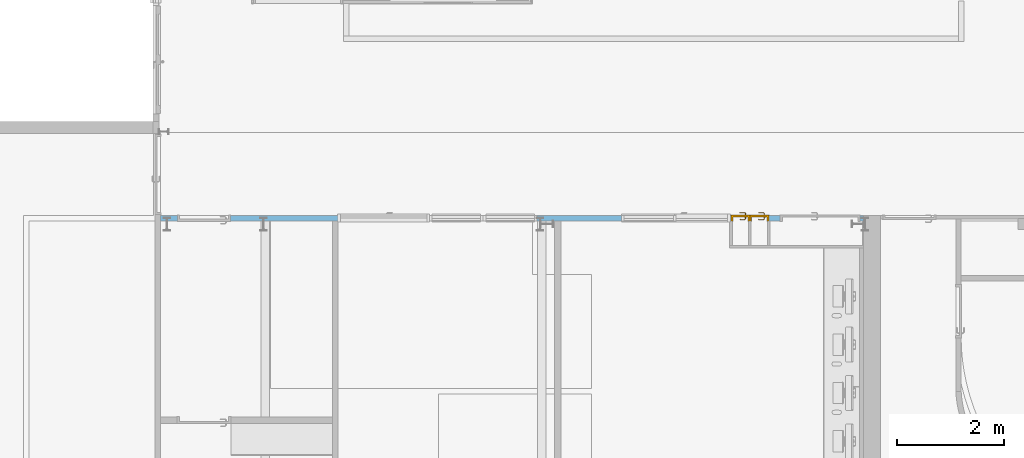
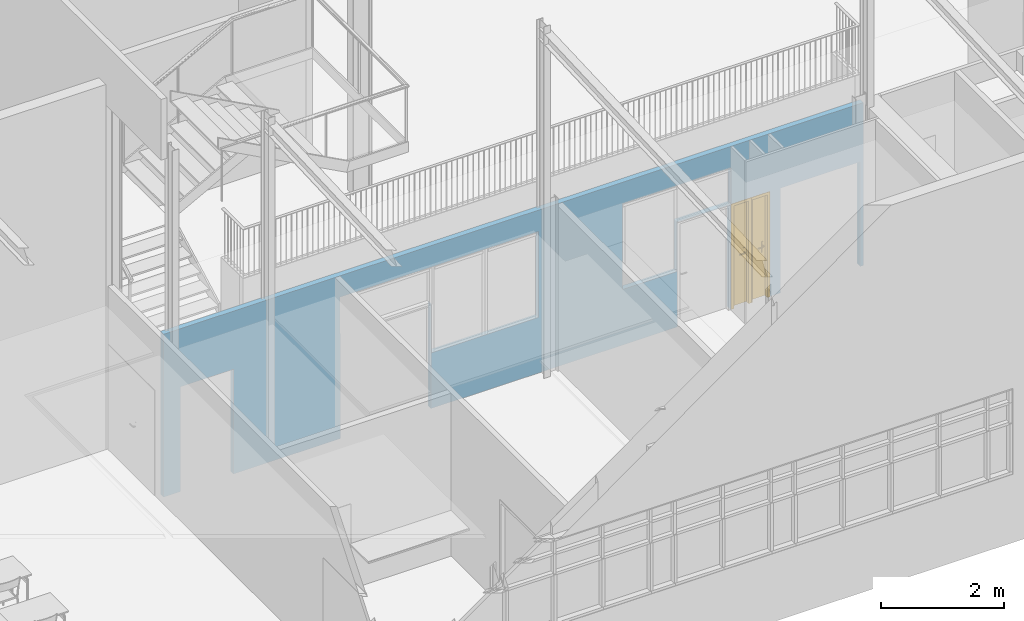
# One storey, part 39 of 137: 2 doors, 10 openings, plus 1 element that does not belong to this part.
"""IFC2X3 building model written with IfcOpenShell, lengths in centimetres."""

import ifcopenshell
import ifcopenshell.guid

model = None  # the IFC model being written
_history = None  # IfcOwnerHistory: only IFC2X3 demands one
_inside = {}  # id of a spatial element -> (the spatial element, [elements in it])
_under = {}  # id of a project, library or spatial element -> (it, [spatial elements below it])
_declared = {}  # id of a project -> (the project, [libraries it declares])
_typed = {}  # id of a type object -> (the type object, [elements of that type])
_made_of = {}  # id of a material, layer set ... -> (it, [elements and type objects made of it])


def new_model(schema):
    """Start an empty IFC model of exactly this schema.

    Asked for "IFC4X3", IfcOpenShell would pick the latest addendum, in which some entities
    have other attributes; the version numbers below select the first issue.
    IFC2X3 requires an IfcOwnerHistory on every rooted entity: one is made here for all.
    """
    global model, _history
    if schema == "IFC4X3":
        model = ifcopenshell.file(schema_version=(4, 3, 0, 0))
    else:
        model = ifcopenshell.file(schema=schema)
    _inside.clear()
    _under.clear()
    _declared.clear()
    _typed.clear()
    _made_of.clear()
    _history = None
    if model.schema == "IFC2X3":
        org = make("IfcOrganization", Name="unknown")
        user = make(
            "IfcPersonAndOrganization",
            ThePerson=make("IfcPerson", FamilyName="unknown"),
            TheOrganization=org,
        )
        app = make(
            "IfcApplication",
            ApplicationDeveloper=org,
            Version="unknown",
            ApplicationFullName="unknown",
            ApplicationIdentifier="unknown",
        )
        _history = make(
            "IfcOwnerHistory",
            OwningUser=user,
            OwningApplication=app,
            ChangeAction="ADDED",
            CreationDate=0,
        )
    return model


def make(cls, **values):
    """One entity of the class cls with the attributes given. An attribute that is None is left unset."""
    return model.create_entity(
        cls, **{name: value for name, value in values.items() if value is not None}
    )


def entity(cls, *values):
    """Any entity or typed value of the class cls, its attributes in the order of the schema. None: left unset."""
    e = model.create_entity(cls)
    for i, value in enumerate(values):
        if value is not None:
            e[i] = value
    return e


def rooted(cls, **values):
    """An entity with a GlobalId (a new one), such as an element, a storey or a relation."""
    return make(cls, GlobalId=ifcopenshell.guid.new(), OwnerHistory=_history, **values)


def si_unit(unit_type, name, prefix=None):
    """IfcSIUnit, for example si_unit("LENGTHUNIT", "METRE", prefix="MILLI")."""
    return make("IfcSIUnit", UnitType=unit_type, Prefix=prefix, Name=name)


def converted_unit(unit_type, name, factor, base, dimensions=None, offset=None):
    """IfcConversionBasedUnit, such as the inch: factor (a typed value) times the base unit."""
    return make(
        "IfcConversionBasedUnit"
        if offset is None
        else "IfcConversionBasedUnitWithOffset",
        ConversionOffset=offset,
        Dimensions=None
        if dimensions is None
        else entity("IfcDimensionalExponents", *dimensions),
        UnitType=unit_type,
        Name=name,
        ConversionFactor=make(
            "IfcMeasureWithUnit", ValueComponent=factor, UnitComponent=base
        ),
    )


def derived_unit(unit_type, elements):
    """IfcDerivedUnit: a product of units, each with its exponent."""
    return make(
        "IfcDerivedUnit",
        Elements=[
            make("IfcDerivedUnitElement", Unit=unit, Exponent=power)
            for unit, power in elements
        ],
        UnitType=unit_type,
    )


def assignment(units):
    """IfcUnitAssignment: the units of a project."""
    return None if units is None else make("IfcUnitAssignment", Units=units)


def point(xyz):
    """IfcCartesianPoint."""
    return None if xyz is None else make("IfcCartesianPoint", Coordinates=xyz)


def direction(xyz):
    """IfcDirection."""
    return None if xyz is None else make("IfcDirection", DirectionRatios=xyz)


def frame(location, z_axis=None, x_axis=None):
    """IfcAxis2Placement3D, a coordinate frame: its origin and axes. An axis left out is left unset."""
    return make(
        "IfcAxis2Placement3D",
        Location=point(location),
        Axis=direction(z_axis),
        RefDirection=direction(x_axis),
    )


def frame_2d(location, x_axis=None):
    """IfcAxis2Placement2D, a coordinate frame in the plane: its origin and x axis."""
    return make(
        "IfcAxis2Placement2D", Location=point(location), RefDirection=direction(x_axis)
    )


def origin():
    """The frame at (0, 0, 0) with its axes left unset."""
    return frame((0.0, 0.0, 0.0))


def place(relative_to, where):
    """IfcLocalPlacement: puts the frame where relative to a parent placement (None: the world)."""
    return make(
        "IfcLocalPlacement", PlacementRelTo=relative_to, RelativePlacement=where
    )


def context(
    kind, dimensions, precision=None, world=None, true_north=None, identifier=None
):
    """IfcGeometricRepresentationContext, for example the 3D "Model" context."""
    return make(
        "IfcGeometricRepresentationContext",
        ContextIdentifier=identifier,
        ContextType=kind,
        CoordinateSpaceDimension=dimensions,
        Precision=precision,
        WorldCoordinateSystem=world,
        TrueNorth=true_north,
    )


def subcontext(parent, identifier, kind, view, scale=None):
    """IfcGeometricRepresentationSubContext, for example "Body" below "Model"."""
    return make(
        "IfcGeometricRepresentationSubContext",
        ContextIdentifier=identifier,
        ContextType=kind,
        ParentContext=parent,
        TargetScale=scale,
        TargetView=view,
    )


def project(units=None, contexts=None):
    """IfcProject with its units and contexts."""
    return rooted(
        "IfcProject",
        Name="project",
        RepresentationContexts=contexts,
        UnitsInContext=assignment(units),
    )


def spatial(cls, under=None, at=None, **own):
    """A site, building, storey or space (cls), placed at a placement, below another one or the project."""
    s = rooted(cls, ObjectPlacement=at, **own)
    if under is not None:
        _under.setdefault(under.id(), (under, []))[1].append(s)
    return s


def polyline(points):
    """IfcPolyline through the points."""
    return make("IfcPolyline", Points=[point(p) for p in points])


def profile(cls, at=None, kind="AREA", **sizes):
    """A parametric profile (cls). Its sizes go by their IFC names, for example OverallWidth=200.0."""
    return make(cls, ProfileType=kind, Position=at, **sizes)


def rectangle(**sizes):
    """IfcRectangleProfileDef."""
    return profile("IfcRectangleProfileDef", **sizes)


def outline(outer, holes=None, kind="AREA"):
    """IfcArbitraryClosedProfileDef: a profile drawn as a closed curve; with holes, ...WithVoids."""
    if holes is None:
        return make("IfcArbitraryClosedProfileDef", ProfileType=kind, OuterCurve=outer)
    return make(
        "IfcArbitraryProfileDefWithVoids",
        ProfileType=kind,
        OuterCurve=outer,
        InnerCurves=holes,
    )


def extrude(swept, where, along, depth):
    """IfcExtrudedAreaSolid: the profile swept, set in the frame where, extruded along a direction by depth."""
    return make(
        "IfcExtrudedAreaSolid",
        SweptArea=swept,
        Position=where,
        ExtrudedDirection=direction(along),
        Depth=depth,
    )


def clip(a, b, op="DIFFERENCE"):
    """IfcBooleanClippingResult: the solid a cut by the half space b."""
    return make(
        "IfcBooleanClippingResult", Operator=op, FirstOperand=a, SecondOperand=b
    )


def bounded_halfspace(plane, agree, where, boundary):
    """IfcPolygonalBoundedHalfSpace: a half space limited to a polygon's prism."""
    return make(
        "IfcPolygonalBoundedHalfSpace",
        BaseSurface=make("IfcPlane", Position=plane),
        AgreementFlag=agree,
        Position=where,
        PolygonalBoundary=boundary,
    )


def faces_of(points, faces, orient=None, outer=None):
    """IfcFace entities. A face is a list of loops; a loop is a list of indices into points, from 0.

    orient and outer hold one flag for each loop. By default every Orientation is true, the
    first loop of a face is its IfcFaceOuterBound and the others are IfcFaceBound.
    """
    made = []
    for i, loops in enumerate(faces):
        bounds = []
        for j, loop in enumerate(loops):
            is_outer = j == 0 if outer is None else outer[i][j]
            bounds.append(
                make(
                    "IfcFaceOuterBound" if is_outer else "IfcFaceBound",
                    Bound=make("IfcPolyLoop", Polygon=[points[k] for k in loop]),
                    Orientation=True if orient is None else orient[i][j],
                )
            )
        made.append(make("IfcFace", Bounds=bounds))
    return made


def faceted_brep(points, faces, orient=None, outer=None, voids=None):
    """IfcFacetedBrep: a solid bounded by flat faces; with voids (closed shells), ...WithVoids."""
    shared = [point(p) for p in points]
    hull = make("IfcClosedShell", CfsFaces=faces_of(shared, faces, orient, outer))
    if voids is None:
        return make("IfcFacetedBrep", Outer=hull)
    return make(
        "IfcFacetedBrepWithVoids",
        Outer=hull,
        Voids=[
            make(cls, CfsFaces=faces_of(shared, fs, o, b)) for cls, fs, o, b in voids
        ],
    )


def shape(context_of_items, identifier, shape_type, items):
    """IfcShapeRepresentation: the items that make up one representation, for example the "Body"."""
    return make(
        "IfcShapeRepresentation",
        ContextOfItems=context_of_items,
        RepresentationIdentifier=identifier,
        RepresentationType=shape_type,
        Items=items,
    )


def source(mapping_origin, context_of_items, identifier, shape_type, items):
    """IfcRepresentationMap: a shape defined once, which mapped items show again and again."""
    return make(
        "IfcRepresentationMap",
        MappingOrigin=mapping_origin,
        MappedRepresentation=shape(context_of_items, identifier, shape_type, items),
    )


def transform(
    local_origin,
    x_axis=None,
    y_axis=None,
    z_axis=None,
    scale=None,
    scale2=None,
    scale3=None,
    uniform=True,
):
    """IfcCartesianTransformationOperator3D, or its non-uniform kind. x_axis, y_axis, z_axis: its Axis1, 2, 3."""
    if uniform:
        return make(
            "IfcCartesianTransformationOperator3D",
            Axis1=direction(x_axis),
            Axis2=direction(y_axis),
            LocalOrigin=point(local_origin),
            Scale=scale,
            Axis3=direction(z_axis),
        )
    return make(
        "IfcCartesianTransformationOperator3DnonUniform",
        Axis1=direction(x_axis),
        Axis2=direction(y_axis),
        LocalOrigin=point(local_origin),
        Scale=scale,
        Axis3=direction(z_axis),
        Scale2=scale2,
        Scale3=scale3,
    )


def mapped(mapping_source, mapping_target):
    """IfcMappedItem: shows the shape of a source again, moved by a transform."""
    return make(
        "IfcMappedItem", MappingSource=mapping_source, MappingTarget=mapping_target
    )


def material(Name=None, Category=None):
    """IfcMaterial."""
    return make("IfcMaterial", Name=Name, Category=Category)


def material_list(materials):
    """IfcMaterialList."""
    return make("IfcMaterialList", Materials=materials)


def layer(
    of_material, thickness, ventilated=None, Name=None, Category=None, Priority=None
):
    """IfcMaterialLayer: one layer of a wall or slab, of a material (None: an air gap)."""
    return make(
        "IfcMaterialLayer",
        Material=of_material,
        LayerThickness=thickness,
        IsVentilated=ventilated,
        Name=Name,
        Category=Category,
        Priority=Priority,
    )


def layer_set(layers, Name=None):
    """IfcMaterialLayerSet."""
    return make("IfcMaterialLayerSet", MaterialLayers=layers, LayerSetName=Name)


def layer_usage(for_layer_set, set_direction, sense, offset, extent=None):
    """IfcMaterialLayerSetUsage: how a layer set lies in its element."""
    return make(
        "IfcMaterialLayerSetUsage",
        ForLayerSet=for_layer_set,
        LayerSetDirection=set_direction,
        DirectionSense=sense,
        OffsetFromReferenceLine=offset,
        ReferenceExtent=extent,
    )


def made_of(thing, what):
    """Note that an element or type object is made of a material, layer set ...; save() writes the relation."""
    if what is not None:
        _made_of.setdefault(what.id(), (what, []))[1].append(thing)
    return thing


def type_object(cls, material=None, **own):
    """A type object (cls), such as IfcWallType, which elements share."""
    return made_of(rooted(cls, **own), material)


def type_shapes(of_type, sources):
    """Give a type object the sources (RepresentationMaps) that its elements show as mapped items."""
    of_type.RepresentationMaps = sources


def element(
    cls,
    number,
    at=None,
    inside=None,
    cuts=None,
    type_object=None,
    material=None,
    context=None,
    identifier="Body",
    shape_type=None,
    held_by="IfcProductDefinitionShape",
    body=None,
    shapes=None,
    **own,
):
    """One element of the class cls, such as IfcWall. Its Tag is "e" and its number.

    at: its placement. inside: the storey or other place that contains it. cuts: it is an
    opening in that element (IfcRelVoidsElement). A single representation is given by context,
    identifier, shape_type and body (its items); several are given by shapes. held_by: the class
    of the entity that holds the representations. save() writes the other relations.
    """
    e = rooted(cls, Tag="e%d" % number, ObjectPlacement=at, **own)
    if body is not None:
        shapes = [shape(context, identifier, shape_type, body)]
    if shapes is not None:
        e.Representation = make(held_by, Representations=shapes)
    if inside is not None:
        _inside.setdefault(inside.id(), (inside, []))[1].append(e)
    if cuts is not None:
        rooted(
            "IfcRelVoidsElement", RelatingBuildingElement=cuts, RelatedOpeningElement=e
        )
    if type_object is not None:
        _typed.setdefault(type_object.id(), (type_object, []))[1].append(e)
    return made_of(e, material)


def fill(opening, filler):
    """IfcRelFillsElement: the door or window that sits in an opening."""
    return rooted(
        "IfcRelFillsElement",
        RelatingOpeningElement=opening,
        RelatedBuildingElement=filler,
    )


def aggregate(whole, parts):
    """IfcRelAggregates: a whole, such as a stair, and the parts it consists of."""
    return rooted("IfcRelAggregates", RelatingObject=whole, RelatedObjects=parts)


def save(model, path):
    """Write the relations noted so far, then the file.

    IfcRelAggregates (storeys below a building ...), IfcRelContainedInSpatialStructure (elements
    in a storey), IfcRelDefinesByType, IfcRelAssociatesMaterial and IfcRelDeclares: one each for
    every whole, place, type object, material and project.
    """
    for whole, parts in _under.values():
        aggregate(whole, parts)
    for where, things in _inside.values():
        rooted(
            "IfcRelContainedInSpatialStructure",
            RelatedElements=things,
            RelatingStructure=where,
        )
    for kind, things in _typed.values():
        rooted("IfcRelDefinesByType", RelatedObjects=things, RelatingType=kind)
    for what, things in _made_of.values():
        rooted("IfcRelAssociatesMaterial", RelatedObjects=things, RelatingMaterial=what)
    for by, libraries in _declared.values():
        rooted("IfcRelDeclares", RelatingContext=by, RelatedDefinitions=libraries)
    model.write(path)


model = new_model("IFC2X3")

# Units and contexts
model_context = context("Model", 3, precision=0.001, world=origin(), true_north=direction((6.12303176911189e-17, 1.0)))
body_context = subcontext(model_context, "Body", "Model", "MODEL_VIEW")
ifc_project = project(units=[si_unit("LENGTHUNIT", "METRE", prefix="CENTI"), si_unit("AREAUNIT", "SQUARE_METRE"), si_unit("VOLUMEUNIT", "CUBIC_METRE"), converted_unit("PLANEANGLEUNIT", "DEGREE", entity("IfcRatioMeasure", 0.0174532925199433), si_unit("PLANEANGLEUNIT", "RADIAN"), dimensions=[0, 0, 0, 0, 0, 0, 0]), si_unit("MASSUNIT", "GRAM", prefix="KILO"), si_unit("TIMEUNIT", "SECOND"), si_unit("FREQUENCYUNIT", "HERTZ"), si_unit("THERMODYNAMICTEMPERATUREUNIT", "DEGREE_CELSIUS"), derived_unit("THERMALTRANSMITTANCEUNIT", [(si_unit("MASSUNIT", "GRAM", prefix="KILO"), 1), (si_unit("THERMODYNAMICTEMPERATUREUNIT", "KELVIN"), -1), (si_unit("TIMEUNIT", "SECOND"), -3)]), derived_unit("VOLUMETRICFLOWRATEUNIT", [(si_unit("LENGTHUNIT", "METRE"), 3), (si_unit("TIMEUNIT", "SECOND"), -1)]), si_unit("ELECTRICCURRENTUNIT", "AMPERE"), si_unit("ELECTRICVOLTAGEUNIT", "VOLT"), si_unit("POWERUNIT", "WATT"), si_unit("FORCEUNIT", "NEWTON", prefix="KILO"), si_unit("ILLUMINANCEUNIT", "LUX"), si_unit("LUMINOUSFLUXUNIT", "LUMEN"), si_unit("LUMINOUSINTENSITYUNIT", "CANDELA"), derived_unit("USERDEFINED", [(si_unit("MASSUNIT", "GRAM", prefix="KILO"), -1), (si_unit("LENGTHUNIT", "METRE"), -2), (si_unit("TIMEUNIT", "SECOND"), 3), (si_unit("LUMINOUSFLUXUNIT", "LUMEN"), 1)]), derived_unit("LINEARVELOCITYUNIT", [(si_unit("LENGTHUNIT", "METRE"), 1), (si_unit("TIMEUNIT", "SECOND"), -1)]), si_unit("PRESSUREUNIT", "PASCAL"), derived_unit("USERDEFINED", [(si_unit("LENGTHUNIT", "METRE"), -2), (si_unit("MASSUNIT", "GRAM", prefix="KILO"), 1), (si_unit("TIMEUNIT", "SECOND"), -2)])], contexts=[model_context])

# Site, building, storey
site_placement = place(None, frame((8.62739174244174, -249.285249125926, 0.0)))
site = spatial("IfcSite", under=ifc_project, at=site_placement, Name="Default", CompositionType="ELEMENT")
building_placement = place(site_placement, origin())
building = spatial("IfcBuilding", under=site, at=building_placement, CompositionType="ELEMENT")
storey_placement = place(building_placement, origin())
storey = spatial("IfcBuildingStorey", under=building, at=storey_placement, Name="RDC", CompositionType="ELEMENT", Elevation=-8.82465566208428e-11)

# Wall, openings, doors
ifc_material_1 = material(Name="Plâtre EXISTANT")
ifc_layer = layer(ifc_material_1, 10.0)
ifc_layer_set = layer_set([ifc_layer], Name="Mur de base:PLA EXISTANT 10")
ifc_layer_usage = layer_usage(ifc_layer_set, "AXIS2", "NEGATIVE", 5.0)
wall_type = type_object("IfcWallType", Name="Mur de base:PLA EXISTANT 10", PredefinedType="STANDARD", material=ifc_layer_set)
wall_placement = place(storey_placement, frame((2162.90482780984, 773.0, 0.0), z_axis=(0.0, 0.0, 1.0), x_axis=(-1.0, 0.0, 0.0)))
wall = element("IfcWallStandardCase", 1, at=wall_placement, inside=storey, type_object=wall_type, material=ifc_layer_usage, Name="Mur de base:PLA EXISTANT 10", ObjectType="Mur de base:PLA EXISTANT 10", context=body_context, shape_type="Clipping", body=[
    clip(extrude(rectangle(XDim=1308.9048278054, YDim=9.99999999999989, at=frame_2d((654.4524139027, -1.82076576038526e-14), x_axis=(-1.0, 0.0))), origin(), (0.0, 0.0, 1.0), 322.000000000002), bounded_halfspace(frame((0.0, -5.0, 322.0), z_axis=(0.0, 0.0, -1.0), x_axis=(1.0, 0.0, 0.0)), True, frame((0.0, -5.0, 322.0)), polyline([(0.0, 0.0), (1308.9048278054, 0.0), (1308.9048278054, 10.0), (988.9048278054, 10.0), (978.9048278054, 10.0), (574.90482780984, 10.0), (562.90482780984, 10.0), (249.0, 10.0), (244.0, 10.0), (214.0, 10.0), (209.0, 10.0), (179.0, 10.0), (174.0, 10.0), (0.0, 10.0), (0.0, 0.0)]))),
])
opening_1_placement = place(wall_placement, origin())
element("IfcOpeningElement", 2, at=opening_1_placement, cuts=wall, Name="Mur de base:PLA EXISTANT 10", ObjectType="Opening", context=body_context, shape_type="SweptSolid", body=[
    extrude(rectangle(XDim=72.9999999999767, YDim=171.0, at=frame_2d((0.0, 0.0), x_axis=(0.0, 1.0))), frame((893.500000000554, -20.2399999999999, 243.499999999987), z_axis=(0.0, 1.0, 0.0), x_axis=(-1.0, 0.0, 0.0)), (0.0, 0.0, 1.0), 40.48),
])
opening_2_placement = place(wall_placement, origin())
element("IfcOpeningElement", 3, at=opening_2_placement, cuts=wall, Name="Mur de base:PLA EXISTANT 10", ObjectType="Opening", context=body_context, shape_type="SweptSolid", body=[
    extrude(rectangle(XDim=170.0, YDim=100.0, at=frame_2d((0.0, -1.10134124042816e-13), x_axis=(1.0, 0.0))), frame((758.0, -20.2400000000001, 195.0), z_axis=(0.0, 1.0, 0.0), x_axis=(0.0, 0.0, 1.0)), (0.0, 0.0, 1.0), 40.48),
])
opening_3_placement = place(wall_placement, origin())
element("IfcOpeningElement", 4, at=opening_3_placement, cuts=wall, Name="Mur de base:PLA EXISTANT 10", ObjectType="Opening", context=body_context, shape_type="SweptSolid", body=[
    extrude(rectangle(XDim=170.0, YDim=100.0, at=frame_2d((0.0, -1.10134124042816e-13), x_axis=(1.0, 0.0))), frame((658.0, -20.2400000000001, 195.0), z_axis=(0.0, 1.0, 0.0), x_axis=(0.0, 0.0, 1.0)), (0.0, 0.0, 1.0), 40.48),
])
opening_4_placement = place(wall_placement, origin())
element("IfcOpeningElement", 5, at=opening_4_placement, cuts=wall, Name="Mur de base:PLA EXISTANT 10", ObjectType="Opening", context=body_context, shape_type="SweptSolid", body=[
    extrude(outline(polyline([(-101.666666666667, -89.3333333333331), (0.333333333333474, -89.3333333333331), (0.333333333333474, 8.66666666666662), (101.333333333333, 8.66666666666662), (101.333333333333, 80.6666666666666), (-101.666666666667, 80.6666666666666), (-101.666666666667, -89.3333333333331)])), frame((349.333333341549, -20.2400000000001, 199.333333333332), z_axis=(0.0, 1.0, 0.0), x_axis=(-1.0, 0.0, 0.0)), (0.0, 0.0, 1.0), 40.48),
])
opening_5_placement = place(wall_placement, frame((155.0, 5.0, 0.0)))
element("IfcOpeningElement", 6, at=opening_5_placement, cuts=wall, Name="Double(R)_bois_Existant_mu:143 x 204 cm:1", ObjectType="Opening", context=body_context, shape_type="SweptSolid", body=[
    extrude(rectangle(XDim=206.999999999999, YDim=149.0, at=frame_2d((103.499999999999, 74.5), x_axis=(1.0, 0.0))), frame((0.0, 0.0, 0.0), z_axis=(0.0, -1.0, 0.0), x_axis=(0.0, 0.0, 1.0)), (0.0, 0.0, 1.0), 10.0),
])
opening_6_placement = place(wall_placement, frame((978.0, 5.0, 0.0)))
element("IfcOpeningElement", 7, at=opening_6_placement, cuts=wall, Name="Double(R)_bois_Existant_mu:163 x 204 cm:1", ObjectType="Opening", context=body_context, shape_type="SweptSolid", body=[
    extrude(rectangle(XDim=206.999999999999, YDim=169.0, at=frame_2d((103.499999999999, 84.4999999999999), x_axis=(1.0, 0.0))), frame((0.0, 0.0, 0.0), z_axis=(0.0, -1.0, 0.0), x_axis=(0.0, 0.0, 1.0)), (0.0, 0.0, 1.0), 10.0),
])
opening_7_placement = place(wall_placement, frame((348.0, 5.0, 0.0)))
element("IfcOpeningElement", 8, at=opening_7_placement, cuts=wall, Name="Simple(R)_bois_Existant_mu:93 x 204 cm:1", ObjectType="Opening", context=body_context, shape_type="SweptSolid", body=[
    extrude(rectangle(XDim=206.999999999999, YDim=98.9999999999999, at=frame_2d((103.499999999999, 49.4999999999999), x_axis=(1.0, 0.0))), frame((0.0, 0.0, 0.0), z_axis=(0.0, -1.0, 0.0), x_axis=(0.0, 0.0, 1.0)), (0.0, 0.0, 1.0), 10.0),
])
opening_8_placement = place(wall_placement, frame((1178.49999999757, -5.0, 0.0)))
element("IfcOpeningElement", 9, at=opening_8_placement, cuts=wall, Name="Simple(R)_bois_Existant_mu:93 x 204 cm:1", ObjectType="Opening", context=body_context, shape_type="SweptSolid", body=[
    extrude(rectangle(XDim=206.999999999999, YDim=98.9999999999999, at=frame_2d((103.499999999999, 49.4999999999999), x_axis=(1.0, 0.0))), frame((0.0, 0.0, 0.0), z_axis=(0.0, 1.0, 0.0), x_axis=(0.0, 0.0, 1.0)), (0.0, 0.0, 1.0), 10.0),
])
opening_9_placement = place(wall_placement, frame((247.0, 5.0, 0.0)))
opening_9 = element("IfcOpeningElement", 10, at=opening_9_placement, cuts=wall, Name="Simple(R)_bois_Existant_mu:30 x 204 cm:1", ObjectType="Opening", context=body_context, shape_type="SweptSolid", body=[
    extrude(rectangle(XDim=206.999999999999, YDim=36.0, at=frame_2d((103.499999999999, 18.0000000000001), x_axis=(1.0, 0.0))), frame((0.0, 0.0, 0.0), z_axis=(0.0, -1.0, 0.0), x_axis=(0.0, 0.0, 1.0)), (0.0, 0.0, 1.0), 10.0),
])
opening_10_placement = place(wall_placement, frame((212.0, 5.0, 0.0)))
opening_10 = element("IfcOpeningElement", 11, at=opening_10_placement, cuts=wall, Name="Simple(R)_bois_Existant_mu:30 x 204 cm:1", ObjectType="Opening", context=body_context, shape_type="SweptSolid", body=[
    extrude(rectangle(XDim=206.999999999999, YDim=36.0, at=frame_2d((103.499999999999, 18.0000000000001), x_axis=(1.0, 0.0))), frame((0.0, 0.0, 0.0), z_axis=(0.0, -1.0, 0.0), x_axis=(0.0, 0.0, 1.0)), (0.0, 0.0, 1.0), 10.0),
])
ifc_material_2 = material(Name="Porte - Poignée")
ifc_material_3 = material(Name="Porte - Cadre")
ifc_material_4 = material(Name="Porte - Panneau")
ifc_material_list_1 = material_list([ifc_material_2, ifc_material_3, ifc_material_4])
ifc_material_list_2 = material_list([ifc_material_2, ifc_material_3, ifc_material_4])
door_style = type_object("IfcDoorStyle", Name="30 x 204 cm", ConstructionType="NOTDEFINED", OperationType="SINGLE_SWING_RIGHT", ParameterTakesPrecedence=False, Sizeable=False, material=ifc_material_list_2)
shared_shape = source(origin(), body_context, "Body", "Brep", [
    faceted_brep([(8.29747013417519, 3.69999999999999, 100.778044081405), (7.89999999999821, 3.69999999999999, 100.699999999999), (7.89999999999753, 3.69999999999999, 99.2999999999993), (8.29747013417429, 3.69999999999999, 99.2219559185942), (8.70252986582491, 3.69999999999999, 99.2219559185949), (9.10000000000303, 3.69999999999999, 99.3000000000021), (9.10000000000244, 3.69999999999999, 100.699999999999), (8.70252986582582, 3.69999999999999, 100.778044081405), (9.10000000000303, 5.94852045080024, 99.3000000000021), (9.10000000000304, 5.94852045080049, 100.699999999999), (8.70252986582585, 6.1131579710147, 100.778044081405), (10.0838906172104, 7.49451872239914, 100.778044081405), (9.91610938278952, 7.89957845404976, 100.778044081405), (8.29747013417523, 6.2809392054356, 100.778044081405), (19.0684749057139, 6.84673156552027, 100.778044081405), (19.3548953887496, 7.13315204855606, 100.778044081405), (18.5884689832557, 7.89957845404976, 100.778044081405), (18.4206877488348, 7.49451872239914, 100.778044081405), (7.89999999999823, 6.44557672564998, 100.699999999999), (7.89999999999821, 6.44557672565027, 99.2999999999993), (8.29747013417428, 6.28093920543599, 99.2219559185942), (9.91610938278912, 7.8995784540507, 99.2219559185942), (10.08389061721, 7.49451872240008, 99.2219559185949), (8.7025298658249, 6.11315797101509, 99.2219559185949), (19.3548953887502, 7.1331520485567, 99.2219559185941), (19.0684749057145, 6.84673156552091, 99.2219559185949), (18.4206877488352, 7.49451872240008, 99.2219559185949), (18.5884689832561, 7.8995784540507, 99.2219559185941), (10.2485281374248, 7.09704858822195, 99.3000000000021), (10.248528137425, 7.09704858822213, 100.699999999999), (9.75147186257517, 8.29704858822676, 100.699999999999), (9.75147186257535, 8.29704858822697, 99.2999999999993), (14.2522904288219, 7.09704858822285, 99.3000000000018), (18.2560502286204, 7.09704858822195, 99.3000000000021), (18.2560502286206, 7.09704858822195, 100.699999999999), (14.2522891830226, 7.09704858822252, 100.699999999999), (14.2522891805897, 7.71249275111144, 100.787811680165), (18.75310650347, 8.29704858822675, 100.699999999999), (14.7600577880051, 8.29704858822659, 100.699999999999), (18.7531065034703, 8.29704858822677, 99.2999999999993), (13.7445206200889, 8.29704858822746, 99.2999999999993), (14.2522892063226, 7.71249274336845, 99.2121883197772), (18.7874210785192, 6.56567773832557, 99.3000000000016), (19.6359492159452, 7.41420587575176, 99.2999999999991), (19.635949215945, 7.4142058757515, 100.699999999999), (18.787421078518, 6.5656777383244, 100.699999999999)], [[[0, 1, 2, 3, 4, 5, 6, 7]], [[6, 5, 8, 9]], [[9, 10, 7, 6]], [[10, 11, 12, 13, 0, 7]], [[14, 15, 16, 17]], [[13, 18, 1, 0]], [[2, 1, 18, 19]], [[19, 20, 3, 2]], [[20, 21, 22, 23, 4, 3]], [[24, 25, 26, 27]], [[23, 8, 5, 4]], [[9, 8, 28, 29]], [[29, 11, 10, 9]], [[12, 30, 18, 13]], [[19, 18, 30, 31]], [[31, 21, 20, 19]], [[22, 28, 8, 23]], [[29, 28, 32, 33, 34, 35]], [[11, 35, 36]], [[16, 37, 38]], [[30, 12, 38]], [[38, 12, 36]], [[36, 35, 17]], [[17, 16, 36]], [[35, 11, 29]], [[34, 17, 35]], [[11, 36, 12]], [[38, 36, 16]], [[31, 30, 38, 37, 39, 40]], [[40, 41, 21]], [[41, 40, 27]], [[21, 31, 40]], [[39, 27, 40]], [[41, 32, 22]], [[22, 21, 41]], [[26, 32, 41]], [[28, 22, 32]], [[32, 26, 33]], [[26, 41, 27]], [[42, 25, 24, 43, 44, 15, 14, 45]], [[34, 33, 42, 45]], [[45, 14, 17, 34]], [[15, 44, 37, 16]], [[39, 37, 44, 43]], [[43, 24, 27, 39]], [[25, 42, 33, 26]]]),
    faceted_brep([(8.29747013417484, -1.30000000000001, 100.778044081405), (8.70252986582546, -1.30000000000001, 100.778044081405), (9.10000000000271, -1.30000000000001, 100.699999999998), (9.10000000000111, -1.30000000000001, 99.3000000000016), (8.70252986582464, -1.30000000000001, 99.2219559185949), (8.29747013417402, -1.30000000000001, 99.2219559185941), (7.89999999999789, -1.30000000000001, 99.2999999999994), (7.89999999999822, -1.30000000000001, 100.699999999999), (7.8999999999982, -4.06509507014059, 100.699999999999), (8.29747013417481, -3.90045754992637, 100.778044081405), (9.90235851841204, -5.50534593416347, 100.778044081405), (10.0701397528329, -5.10028620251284, 100.778044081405), (8.70252986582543, -3.73267631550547, 100.778044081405), (19.352181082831, -4.73891952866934, 100.778044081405), (19.0657605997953, -4.4524990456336, 100.778044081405), (18.4179734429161, -5.10028620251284, 100.778044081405), (18.585754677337, -5.50534593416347, 100.778044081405), (9.10000000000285, -3.56803879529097, 100.699999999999), (9.10000000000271, -3.56803879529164, 99.3000000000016), (8.70252986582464, -3.7326763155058, 99.2219559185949), (10.0701397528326, -5.10028620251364, 99.2219559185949), (9.90235851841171, -5.50534593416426, 99.2219559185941), (8.29747013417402, -3.9004575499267, 99.2219559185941), (19.0657605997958, -4.45249904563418, 99.2219559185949), (19.3521810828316, -4.73891952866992, 99.2219559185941), (18.5857546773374, -5.50534593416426, 99.2219559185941), (18.4179734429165, -5.10028620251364, 99.2219559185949), (7.89999999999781, -4.06509507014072, 99.2999999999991), (9.73772099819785, -5.90281606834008, 100.699999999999), (10.2347772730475, -4.70281606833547, 100.699999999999), (10.2347772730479, -4.70281606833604, 99.3000000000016), (9.73772099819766, -5.90281606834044, 99.2999999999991), (13.7307697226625, -5.90281606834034, 100.699999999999), (14.2440566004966, -5.31828027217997, 100.787811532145), (18.7503921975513, -5.90281606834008, 100.699999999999), (14.2440565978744, -4.70281606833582, 100.699999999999), (18.2533359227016, -4.70281606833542, 100.699999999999), (18.2533359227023, -4.70281606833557, 99.3000000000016), (14.2440563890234, -4.70281606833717, 99.3000000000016), (14.244056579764, -5.31828027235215, 99.2121884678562), (18.7503921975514, -5.90281606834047, 99.2999999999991), (14.7573433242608, -5.90281606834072, 99.2999999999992), (18.7847067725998, -4.1714452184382, 100.699999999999), (19.6332349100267, -5.01997335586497, 100.699999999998), (19.6332349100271, -5.01997335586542, 99.2999999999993), (18.7847067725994, -4.17144521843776, 99.3000000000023)], [[[0, 1, 2, 3, 4, 5, 6, 7]], [[8, 9, 0, 7]], [[9, 10, 11, 12, 1, 0]], [[13, 14, 15, 16]], [[12, 17, 2, 1]], [[3, 2, 17, 18]], [[18, 19, 4, 3]], [[19, 20, 21, 22, 5, 4]], [[23, 24, 25, 26]], [[22, 27, 6, 5]], [[7, 6, 27, 8]], [[28, 10, 9, 8]], [[11, 29, 17, 12]], [[18, 17, 29, 30]], [[30, 20, 19, 18]], [[21, 31, 27, 22]], [[8, 27, 31, 28]], [[32, 33, 10]], [[33, 32, 16]], [[10, 28, 32]], [[34, 16, 32]], [[33, 35, 11]], [[11, 10, 33]], [[15, 35, 33]], [[29, 11, 35]], [[35, 15, 36]], [[15, 33, 16]], [[30, 29, 35, 36, 37, 38]], [[20, 38, 39]], [[25, 40, 41]], [[31, 21, 41]], [[41, 21, 39]], [[39, 38, 26]], [[26, 25, 39]], [[38, 20, 30]], [[37, 26, 38]], [[20, 39, 21]], [[41, 39, 25]], [[28, 31, 41, 40, 34, 32]], [[42, 14, 13, 43, 44, 24, 23, 45]], [[43, 13, 16, 34]], [[14, 42, 36, 15]], [[37, 36, 42, 45]], [[45, 23, 26, 37]], [[24, 44, 40, 25]], [[34, 40, 44, 43]]]),
    faceted_brep([(9.53527618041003, 3.19999999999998, 86.6003983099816), (10.4999999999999, 3.19999999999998, 87.0), (10.4999999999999, 3.19999999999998, 108.0), (9.53527618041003, 3.19999999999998, 108.399601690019), (8.49999999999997, 3.19999999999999, 108.535898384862), (7.46472381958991, 3.19999999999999, 108.399601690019), (6.5, 3.19999999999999, 108.0), (6.50000000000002, 3.19999999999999, 87.0), (7.4647238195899, 3.19999999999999, 86.6003983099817), (8.49999999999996, 3.19999999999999, 86.4641016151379), (9.53527618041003, 3.69999999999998, 108.399601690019), (10.4999999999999, 3.69999999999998, 108.0), (10.4999999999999, 3.69999999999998, 87.0), (9.53527618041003, 3.69999999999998, 86.6003983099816), (8.49999999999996, 3.69999999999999, 86.4641016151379), (7.4647238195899, 3.69999999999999, 86.6003983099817), (6.5, 3.69999999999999, 87.0), (6.50000000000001, 3.69999999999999, 108.0), (7.46472381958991, 3.69999999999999, 108.399601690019), (8.49999999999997, 3.69999999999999, 108.535898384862)], [[[0, 1, 2, 3, 4, 5, 6, 7, 8, 9]], [[10, 11, 12, 13, 14, 15, 16, 17, 18, 19]], [[11, 10, 3, 2]], [[3, 10, 19, 4]], [[19, 18, 5, 4]], [[18, 17, 6, 5]], [[7, 6, 17, 16]], [[16, 15, 8, 7]], [[8, 15, 14, 9]], [[14, 13, 0, 9]], [[13, 12, 1, 0]], [[2, 1, 12, 11]]]),
    faceted_brep([(9.53527618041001, -1.30000000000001, 86.6003983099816), (10.4999999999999, -1.30000000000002, 87.0), (10.4999999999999, -1.30000000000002, 108.0), (9.53527618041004, -1.30000000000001, 108.399601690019), (8.49999999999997, -1.30000000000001, 108.535898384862), (7.46472381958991, -1.30000000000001, 108.399601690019), (6.5, -1.3, 108.0), (6.49999999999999, -1.3, 87.0), (7.46472381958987, -1.30000000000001, 86.6003983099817), (8.49999999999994, -1.30000000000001, 86.4641016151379), (9.53527618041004, -0.800000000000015, 108.399601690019), (10.4999999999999, -0.800000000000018, 108.0), (10.4999999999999, -0.800000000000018, 87.0), (9.53527618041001, -0.800000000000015, 86.6003983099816), (8.49999999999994, -0.800000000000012, 86.4641016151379), (7.46472381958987, -0.800000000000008, 86.6003983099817), (6.49999999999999, -0.800000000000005, 87.0), (6.5, -0.800000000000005, 108.0), (7.46472381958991, -0.800000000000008, 108.399601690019), (8.49999999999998, -0.800000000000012, 108.535898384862)], [[[0, 1, 2, 3, 4, 5, 6, 7, 8, 9]], [[10, 11, 12, 13, 14, 15, 16, 17, 18, 19]], [[16, 15, 8, 7]], [[8, 15, 14, 9]], [[14, 13, 0, 9]], [[13, 12, 1, 0]], [[2, 1, 12, 11]], [[11, 10, 3, 2]], [[3, 10, 19, 4]], [[19, 18, 5, 4]], [[18, 17, 6, 5]], [[7, 6, 17, 16]]]),
    faceted_brep([(0.0, 0.0, 0.0), (0.0, 10.0, 0.0), (-1.0, 10.0, 0.0), (-1.0, 10.8000000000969, 0.0), (4.0, 10.8000000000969, 0.0), (4.0, 3.2, 0.0), (3.0, 3.2, 0.0), (3.0, -0.799999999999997, 0.0), (-1.0, -0.799999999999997, 0.0), (-1.0, 0.0, 0.0), (0.0, 0.0, 207.0), (0.0, 10.0, 207.0), (36.0, 10.0, 207.0), (36.0, 10.0, 0.0), (37.0, 10.0, 0.0), (37.0, 10.0, 208.0), (-1.0, 10.0, 208.0), (-1.0, 10.8000000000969, 208.0), (37.0, 10.8000000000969, 208.0), (37.0, 10.8000000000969, 0.0), (32.0, 10.8000000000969, 0.0), (32.0, 10.8000000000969, 203.0), (4.0, 10.8000000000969, 203.0), (4.0, 3.2, 203.0), (32.0, 3.2, 203.0), (32.0, 3.2, 0.0), (33.0, 3.2, 0.0), (33.0, 3.2, 204.0), (3.0, 3.2, 204.0), (3.0, -0.799999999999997, 204.0), (33.0, -0.799999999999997, 204.0), (33.0, -0.799999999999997, 0.0), (37.0, -0.799999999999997, 0.0), (37.0, -0.799999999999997, 208.0), (-1.0, -0.799999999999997, 208.0), (-1.0, 0.0, 208.0), (37.0, 0.0, 208.0), (37.0, 0.0, 0.0), (36.0, 0.0, 0.0), (36.0, 0.0, 207.0)], [[[0, 1, 2, 3, 4, 5, 6, 7, 8, 9]], [[1, 0, 10, 11]], [[2, 1, 11, 12, 13, 14, 15, 16]], [[3, 2, 16, 17]], [[4, 3, 17, 18, 19, 20, 21, 22]], [[5, 4, 22, 23]], [[6, 5, 23, 24, 25, 26, 27, 28]], [[7, 6, 28, 29]], [[8, 7, 29, 30, 31, 32, 33, 34]], [[9, 8, 34, 35]], [[0, 9, 35, 36, 37, 38, 39, 10]], [[12, 39, 38, 13]], [[38, 37, 32, 31, 26, 25, 20, 19, 14, 13]], [[18, 15, 14, 19]], [[24, 21, 20, 25]], [[30, 27, 26, 31]], [[36, 33, 32, 37]], [[11, 10, 39, 12]], [[17, 16, 15, 18]], [[23, 22, 21, 24]], [[29, 28, 27, 30]], [[35, 34, 33, 36]]]),
    faceted_brep([(3.0, -0.799999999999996, 204.0), (3.0, -0.799999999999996, 0.0), (33.0, -0.799999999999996, 0.0), (33.0, -0.799999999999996, 204.0), (3.0, 3.2, 204.0), (33.0, 3.2, 204.0), (33.0, 3.2, 0.0), (3.0, 3.2, 0.0)], [[[0, 1, 2, 3]], [[4, 5, 6, 7]], [[1, 0, 4, 7]], [[2, 1, 7, 6]], [[3, 2, 6, 5]], [[0, 3, 5, 4]]]),
])
type_shapes(door_style, [shared_shape])
door_1_placement = place(opening_9_placement, frame((-36.0, -10.0, 0.0)))
door_1 = element("IfcDoor", 12, at=door_1_placement, inside=storey, type_object=door_style, material=ifc_material_list_1, Name="Simple(R)_bois_Existant_mu:30 x 204 cm", ObjectType="30 x 204 cm", OverallHeight=206.999999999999, OverallWidth=36.0, context=body_context, shape_type="MappedRepresentation", body=[
    mapped(shared_shape, transform((0.0, 0.0, 0.0), scale=1.0)),
])
fill(opening_9, door_1)
ifc_material_list_3 = material_list([ifc_material_2, ifc_material_3, ifc_material_4])
door_2_placement = place(opening_10_placement, frame((-36.0, -10.0, 0.0)))
door_2 = element("IfcDoor", 13, at=door_2_placement, inside=storey, type_object=door_style, material=ifc_material_list_3, Name="Simple(R)_bois_Existant_mu:30 x 204 cm", ObjectType="30 x 204 cm", OverallHeight=206.999999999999, OverallWidth=36.0, context=body_context, shape_type="MappedRepresentation", body=[
    mapped(shared_shape, transform((0.0, 0.0, 0.0), scale=1.0)),
])
fill(opening_10, door_2)

save(model, "model.ifc")
